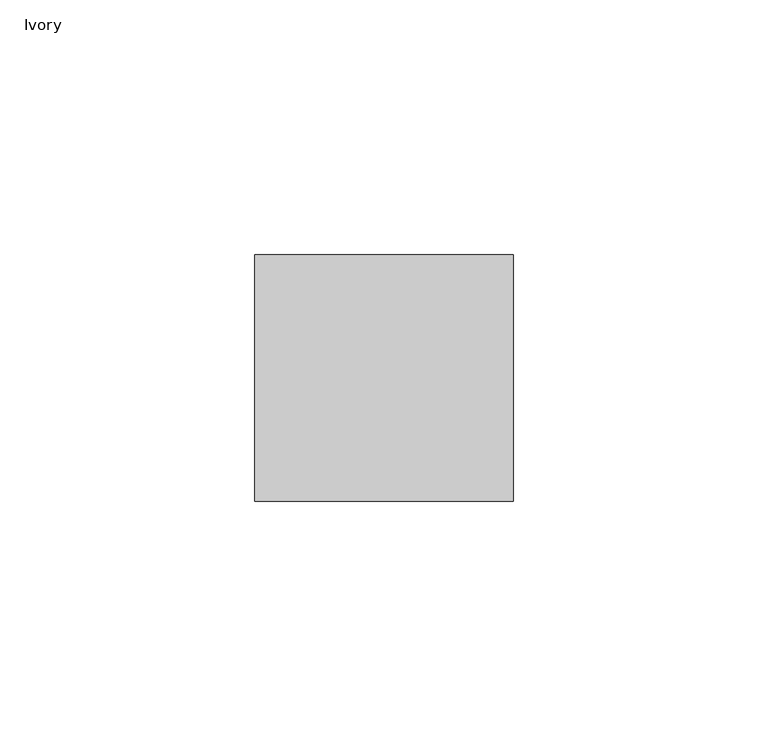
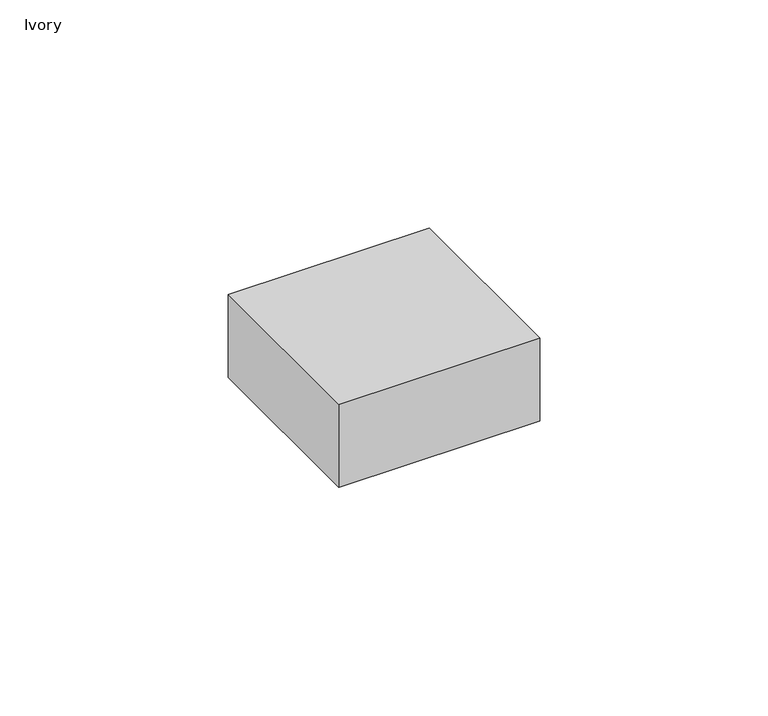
"""IFC4 building model written with IfcOpenShell, lengths in millimetres: proxy geometry, Connector-2400_Series-Wiremold-Side_Reducing : Ivory."""

from ifc_helpers import new_model, si_unit, origin, origin_with_axes, place, context, project, spatial, polyline, outline, extrude, source, transform, mapped, element, save


def ivory_ff5f309a(model_context):
    return source(origin(), model_context, "Body", "SweptSolid", [
        extrude(outline(polyline([(25.4, 24.2062), (25.4, -24.2062), (-25.4, -24.2062), (-25.4, 24.2062), (25.4, 24.2062)])), origin_with_axes(), (0.0, 0.0, 1.0), 22.225),
    ])


if __name__ == "__main__":
    model = new_model("IFC4")
    model_context = context("Model", 3, world=origin())
    ifc_project = project(units=[si_unit("LENGTHUNIT", "METRE", prefix="MILLI")], contexts=[model_context])
    site = spatial("IfcSite", under=ifc_project)
    building = spatial("IfcBuilding", under=site)
    placement = place(None, origin())
    ivory_shape = ivory_ff5f309a(model_context)
    element("IfcBuildingElementProxy", 1, Name="Connector-2400_Series-Wiremold-Side_Reducing : Ivory", ObjectType="Connector-2400_Series-Wiremold-Side_Reducing : Ivory", at=placement, inside=building, context=model_context, shape_type="MappedRepresentation", body=[
        mapped(ivory_shape, transform((0.0, 0.0, 0.0), x_axis=(1.0, 0.0, 0.0), y_axis=(0.0, 1.0, 0.0), z_axis=(0.0, 0.0, 1.0))),
    ])
    save(model, "model.ifc")
